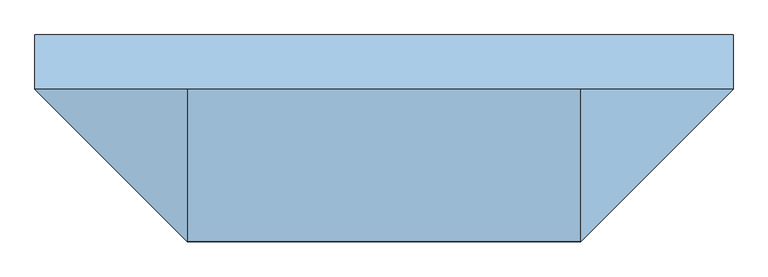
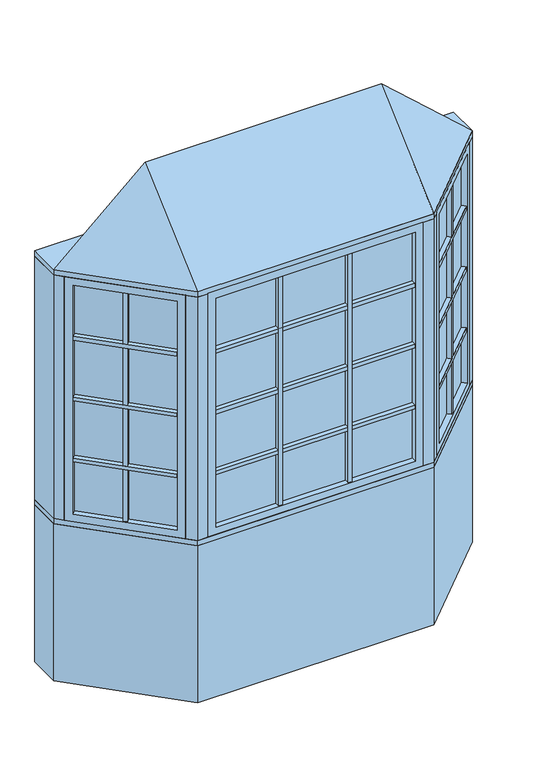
"""IFC4 building model written with IfcOpenShell, lengths in millimetres: window geometry, Pollard_Windows_Tudor Casement Bows and Bays : AML-BAY 45 AFR0612-08-500_GC."""

from ifc_helpers import new_model, si_unit, frame, origin, origin_with_axes, place, context, project, spatial, polyline, outline, extrude, faceted_brep, source, transform, mapped, element, save


def window_bb3dbd00(model_context):
    return source(origin(), model_context, "Body", "SolidModel", [
        extrude(outline(polyline([(609.3614193, -437.1108753), (593.8050701, -421.5545261), (901.616171, -113.7434252), (917.1725202, -129.2997743), (609.3614193, -437.1108753)])), frame((0.0, 0.0, 1390.998), z_axis=(0.0, 0.0, 1.0), x_axis=(1.0, 0.0, 0.0)), (0.0, 0.0, 1.0), 18.0),
        extrude(outline(polyline([(590.2129677, -417.9624236), (574.6566185, -402.4060744), (882.4677194, -94.5949735), (898.0240686, -110.1513227), (590.2129677, -417.9624236)])), frame((0.0, 0.0, 1390.998), z_axis=(0.0, 0.0, 1.0), x_axis=(1.0, 0.0, 0.0)), (0.0, 0.0, 1.0), 18.0),
        extrude(outline(polyline([(609.3614193, -437.1108753), (593.8050701, -421.5545261), (901.616171, -113.7434252), (917.1725202, -129.2997743), (609.3614193, -437.1108753)])), frame((0.0, 0.0, 1090.998), z_axis=(0.0, 0.0, 1.0), x_axis=(1.0, 0.0, 0.0)), (0.0, 0.0, 1.0), 18.0),
        extrude(outline(polyline([(590.2129677, -417.9624236), (574.6566185, -402.4060744), (882.4677194, -94.5949735), (898.0240686, -110.1513227), (590.2129677, -417.9624236)])), frame((0.0, 0.0, 1090.998), z_axis=(0.0, 0.0, 1.0), x_axis=(1.0, 0.0, 0.0)), (0.0, 0.0, 1.0), 18.0),
        extrude(outline(polyline([(609.3614193, -437.1108753), (593.8050701, -421.5545261), (901.616171, -113.7434252), (917.1725202, -129.2997743), (609.3614193, -437.1108753)])), frame((0.0, 0.0, 1390.998), z_axis=(0.0, 0.0, 1.0), x_axis=(1.0, 0.0, 0.0)), (0.0, 0.0, 1.0), 18.0),
        extrude(outline(polyline([(590.2129677, -417.9624236), (574.6566185, -402.4060744), (882.4677194, -94.5949735), (898.0240686, -110.1513227), (590.2129677, -417.9624236)])), frame((0.0, 0.0, 1390.998), z_axis=(0.0, 0.0, 1.0), x_axis=(1.0, 0.0, 0.0)), (0.0, 0.0, 1.0), 18.0),
        extrude(outline(polyline([(609.3614193, -437.1108753), (593.8050701, -421.5545261), (901.616171, -113.7434252), (917.1725202, -129.2997743), (609.3614193, -437.1108753)])), frame((0.0, 0.0, 1390.998), z_axis=(0.0, 0.0, 1.0), x_axis=(1.0, 0.0, 0.0)), (0.0, 0.0, 1.0), 18.0),
        extrude(outline(polyline([(590.2129677, -417.9624236), (574.6566185, -402.4060744), (882.4677194, -94.5949735), (898.0240686, -110.1513227), (590.2129677, -417.9624236)])), frame((0.0, 0.0, 1390.998), z_axis=(0.0, 0.0, 1.0), x_axis=(1.0, 0.0, 0.0)), (0.0, 0.0, 1.0), 18.0),
        extrude(outline(polyline([(609.3614193, -437.1108753), (593.8050701, -421.5545261), (901.616171, -113.7434252), (917.1725202, -129.2997743), (609.3614193, -437.1108753)])), frame((0.0, 0.0, 1690.998), z_axis=(0.0, 0.0, 1.0), x_axis=(1.0, 0.0, 0.0)), (0.0, 0.0, 1.0), 18.0),
        extrude(outline(polyline([(590.2129677, -417.9624236), (574.6566185, -402.4060744), (882.4677194, -94.5949735), (898.0240686, -110.1513227), (590.2129677, -417.9624236)])), frame((0.0, 0.0, 1690.998), z_axis=(0.0, 0.0, 1.0), x_axis=(1.0, 0.0, 0.0)), (0.0, 0.0, 1.0), 18.0),
        extrude(outline(polyline([(754.0745816, -261.2850146), (769.6309308, -276.8413638), (756.9030087, -289.5692858), (741.3466595, -274.0129366), (754.0745816, -261.2850146)])), frame((0.0, 0.0, 835.8628), z_axis=(0.0, 0.0, 1.0), x_axis=(1.0, 0.0, 0.0)), (0.0, 0.0, 1.0), 1128.2704),
        extrude(outline(polyline([(750.4824791, -257.6929121), (737.7545571, -270.4208342), (722.1982079, -254.864485), (734.92613, -242.1365629), (750.4824791, -257.6929121)])), frame((0.0, 0.0, 835.8628), z_axis=(0.0, 0.0, 1.0), x_axis=(1.0, 0.0, 0.0)), (0.0, 0.0, 1.0), 1128.2704),
        extrude(outline(polyline([(910.5964271, -104.763169), (584.824814, -430.5347822), (581.2327115, -426.9426797), (907.0043247, -101.1710666), (910.5964271, -104.763169)])), frame((0.0, 0.0, 823.1628), z_axis=(0.0, 0.0, 1.0), x_axis=(1.0, 0.0, 0.0)), (0.0, 0.0, 1.0), 1153.6704),
        faceted_brep([(901.616171, -113.7434252, 835.8628), (919.5766833, -131.7039374, 835.8628), (919.5766833, -131.7039374, 1964.1332), (901.616171, -113.7434252, 1964.1332), (907.0043247, -101.1710666, 823.1628), (910.5964271, -104.763169, 823.1628), (910.5964271, -104.763169, 1976.8332), (907.0043247, -101.1710666, 1976.8332), (880.0635563, -92.1908105, 835.8628), (898.0240686, -110.1513227, 835.8628), (898.0240686, -110.1513227, 1964.1332), (880.0635563, -92.1908105, 1964.1332), (944.9369265, -106.3436941, 799.998), (905.4237996, -66.8305672, 799.998), (905.4237996, -66.8305672, 1999.998), (944.9369265, -106.3436941, 1999.998), (611.7655823, -439.5150383, 1964.1332), (593.8050701, -421.5545261, 1964.1332), (584.824814, -430.5347822, 1976.8332), (581.2327115, -426.9426797, 1976.8332), (590.2129677, -417.9624236, 1964.1332), (572.2524554, -400.0019114, 1964.1332), (546.8922121, -425.3621547, 1999.998), (586.4053391, -464.8752816, 1999.998), (611.7655823, -439.5150383, 835.8628), (593.8050701, -421.5545261, 835.8628), (584.824814, -430.5347822, 823.1628), (581.2327115, -426.9426797, 823.1628), (590.2129677, -417.9624236, 835.8628), (572.2524554, -400.0019114, 835.8628), (546.8922121, -425.3621547, 799.998), (586.4053391, -464.8752816, 799.998)], [[[0, 1, 2, 3]], [[4, 5, 6, 7]], [[8, 9, 10, 11]], [[12, 13, 14, 15]], [[3, 2, 16, 17]], [[7, 6, 18, 19]], [[11, 10, 20, 21]], [[15, 14, 22, 23]], [[17, 16, 24, 25]], [[19, 18, 26, 27]], [[21, 20, 28, 29]], [[23, 22, 30, 31]], [[25, 24, 1, 0]], [[5, 26, 18, 6], [3, 17, 25, 0]], [[27, 26, 5, 4]], [[7, 19, 27, 4], [9, 28, 20, 10]], [[29, 28, 9, 8]], [[13, 30, 22, 14], [11, 21, 29, 8]], [[31, 30, 13, 12]], [[15, 23, 31, 12], [1, 24, 16, 2]]]),
        extrude(outline(polyline([(171.2952, -474.8306207), (171.2952, -496.8306207), (153.2952, -496.8306207), (153.2952, -474.8306207), (171.2952, -474.8306207)])), frame((0.0, 0.0, 835.8628), z_axis=(0.0, 0.0, 1.0), x_axis=(1.0, 0.0, 0.0)), (0.0, 0.0, 1.0), 1128.2704),
        extrude(outline(polyline([(171.2952, -469.7506207), (153.2952, -469.7506207), (153.2952, -447.7506207), (171.2952, -447.7506207), (171.2952, -469.7506207)])), frame((0.0, 0.0, 835.8628), z_axis=(0.0, 0.0, 1.0), x_axis=(1.0, 0.0, 0.0)), (0.0, 0.0, 1.0), 1128.2704),
        extrude(outline(polyline([(-153.2952, -474.8306207), (-153.2952, -496.8306207), (-171.2952, -496.8306207), (-171.2952, -474.8306207), (-153.2952, -474.8306207)])), frame((0.0, 0.0, 835.8628), z_axis=(0.0, 0.0, 1.0), x_axis=(1.0, 0.0, 0.0)), (0.0, 0.0, 1.0), 1128.2704),
        extrude(outline(polyline([(-153.2952, -469.7506207), (-171.2952, -469.7506207), (-171.2952, -447.7506207), (-153.2952, -447.7506207), (-153.2952, -469.7506207)])), frame((0.0, 0.0, 835.8628), z_axis=(0.0, 0.0, 1.0), x_axis=(1.0, 0.0, 0.0)), (0.0, 0.0, 1.0), 1128.2704),
        extrude(outline(polyline([(-465.1852, -496.8306207), (-465.1852, -474.8306207), (465.1852, -474.8306207), (465.1852, -496.8306207), (-465.1852, -496.8306207)])), frame((0.0, 0.0, 1090.998), z_axis=(0.0, 0.0, 1.0), x_axis=(1.0, 0.0, 0.0)), (0.0, 0.0, 1.0), 18.0),
        extrude(outline(polyline([(-465.1852, -469.7506207), (-465.1852, -447.7506207), (465.1852, -447.7506207), (465.1852, -469.7506207), (-465.1852, -469.7506207)])), frame((0.0, 0.0, 1090.998), z_axis=(0.0, 0.0, 1.0), x_axis=(1.0, 0.0, 0.0)), (0.0, 0.0, 1.0), 18.0),
        extrude(outline(polyline([(-465.1852, -496.8306207), (-465.1852, -474.8306207), (465.1852, -474.8306207), (465.1852, -496.8306207), (-465.1852, -496.8306207)])), frame((0.0, 0.0, 1390.998), z_axis=(0.0, 0.0, 1.0), x_axis=(1.0, 0.0, 0.0)), (0.0, 0.0, 1.0), 18.0),
        extrude(outline(polyline([(-465.1852, -469.7506207), (-465.1852, -447.7506207), (465.1852, -447.7506207), (465.1852, -469.7506207), (-465.1852, -469.7506207)])), frame((0.0, 0.0, 1390.998), z_axis=(0.0, 0.0, 1.0), x_axis=(1.0, 0.0, 0.0)), (0.0, 0.0, 1.0), 18.0),
        extrude(outline(polyline([(-465.1852, -496.8306207), (-465.1852, -474.8306207), (465.1852, -474.8306207), (465.1852, -496.8306207), (-465.1852, -496.8306207)])), frame((0.0, 0.0, 1390.998), z_axis=(0.0, 0.0, 1.0), x_axis=(1.0, 0.0, 0.0)), (0.0, 0.0, 1.0), 18.0),
        extrude(outline(polyline([(-465.1852, -469.7506207), (-465.1852, -447.7506207), (465.1852, -447.7506207), (465.1852, -469.7506207), (-465.1852, -469.7506207)])), frame((0.0, 0.0, 1390.998), z_axis=(0.0, 0.0, 1.0), x_axis=(1.0, 0.0, 0.0)), (0.0, 0.0, 1.0), 18.0),
        extrude(outline(polyline([(-465.1852, -496.8306207), (-465.1852, -474.8306207), (465.1852, -474.8306207), (465.1852, -496.8306207), (-465.1852, -496.8306207)])), frame((0.0, 0.0, 1390.998), z_axis=(0.0, 0.0, 1.0), x_axis=(1.0, 0.0, 0.0)), (0.0, 0.0, 1.0), 18.0),
        extrude(outline(polyline([(-465.1852, -469.7506207), (-465.1852, -447.7506207), (465.1852, -447.7506207), (465.1852, -469.7506207), (-465.1852, -469.7506207)])), frame((0.0, 0.0, 1390.998), z_axis=(0.0, 0.0, 1.0), x_axis=(1.0, 0.0, 0.0)), (0.0, 0.0, 1.0), 18.0),
        extrude(outline(polyline([(-917.1725202, -129.2997743), (-901.616171, -113.7434252), (-593.8050701, -421.5545261), (-609.3614193, -437.1108753), (-917.1725202, -129.2997743)])), frame((0.0, 0.0, 1090.998), z_axis=(0.0, 0.0, 1.0), x_axis=(1.0, 0.0, 0.0)), (0.0, 0.0, 1.0), 18.0),
        extrude(outline(polyline([(-898.0240686, -110.1513227), (-882.4677194, -94.5949735), (-574.6566185, -402.4060744), (-590.2129677, -417.9624236), (-898.0240686, -110.1513227)])), frame((0.0, 0.0, 1090.998), z_axis=(0.0, 0.0, 1.0), x_axis=(1.0, 0.0, 0.0)), (0.0, 0.0, 1.0), 18.0),
        extrude(outline(polyline([(-917.1725202, -129.2997743), (-901.616171, -113.7434252), (-593.8050701, -421.5545261), (-609.3614193, -437.1108753), (-917.1725202, -129.2997743)])), frame((0.0, 0.0, 1390.998), z_axis=(0.0, 0.0, 1.0), x_axis=(1.0, 0.0, 0.0)), (0.0, 0.0, 1.0), 18.0),
        extrude(outline(polyline([(-898.0240686, -110.1513227), (-882.4677194, -94.5949735), (-574.6566185, -402.4060744), (-590.2129677, -417.9624236), (-898.0240686, -110.1513227)])), frame((0.0, 0.0, 1390.998), z_axis=(0.0, 0.0, 1.0), x_axis=(1.0, 0.0, 0.0)), (0.0, 0.0, 1.0), 18.0),
        extrude(outline(polyline([(-917.1725202, -129.2997743), (-901.616171, -113.7434252), (-593.8050701, -421.5545261), (-609.3614193, -437.1108753), (-917.1725202, -129.2997743)])), frame((0.0, 0.0, 1390.998), z_axis=(0.0, 0.0, 1.0), x_axis=(1.0, 0.0, 0.0)), (0.0, 0.0, 1.0), 18.0),
        extrude(outline(polyline([(-898.0240686, -110.1513227), (-882.4677194, -94.5949735), (-574.6566185, -402.4060744), (-590.2129677, -417.9624236), (-898.0240686, -110.1513227)])), frame((0.0, 0.0, 1390.998), z_axis=(0.0, 0.0, 1.0), x_axis=(1.0, 0.0, 0.0)), (0.0, 0.0, 1.0), 18.0),
        extrude(outline(polyline([(-917.1725202, -129.2997743), (-901.616171, -113.7434252), (-593.8050701, -421.5545261), (-609.3614193, -437.1108753), (-917.1725202, -129.2997743)])), frame((0.0, 0.0, 1390.998), z_axis=(0.0, 0.0, 1.0), x_axis=(1.0, 0.0, 0.0)), (0.0, 0.0, 1.0), 18.0),
        extrude(outline(polyline([(-898.0240686, -110.1513227), (-882.4677194, -94.5949735), (-574.6566185, -402.4060744), (-590.2129677, -417.9624236), (-898.0240686, -110.1513227)])), frame((0.0, 0.0, 1390.998), z_axis=(0.0, 0.0, 1.0), x_axis=(1.0, 0.0, 0.0)), (0.0, 0.0, 1.0), 18.0),
        extrude(outline(polyline([(-917.1725202, -129.2997743), (-901.616171, -113.7434252), (-593.8050701, -421.5545261), (-609.3614193, -437.1108753), (-917.1725202, -129.2997743)])), frame((0.0, 0.0, 1690.998), z_axis=(0.0, 0.0, 1.0), x_axis=(1.0, 0.0, 0.0)), (0.0, 0.0, 1.0), 18.0),
        extrude(outline(polyline([(-898.0240686, -110.1513227), (-882.4677194, -94.5949735), (-574.6566185, -402.4060744), (-590.2129677, -417.9624236), (-898.0240686, -110.1513227)])), frame((0.0, 0.0, 1690.998), z_axis=(0.0, 0.0, 1.0), x_axis=(1.0, 0.0, 0.0)), (0.0, 0.0, 1.0), 18.0),
        extrude(outline(polyline([(-465.1852, -496.8306207), (-465.1852, -474.8306207), (465.1852, -474.8306207), (465.1852, -496.8306207), (-465.1852, -496.8306207)])), frame((0.0, 0.0, 1690.998), z_axis=(0.0, 0.0, 1.0), x_axis=(1.0, 0.0, 0.0)), (0.0, 0.0, 1.0), 18.0),
        extrude(outline(polyline([(-465.1852, -469.7506207), (-465.1852, -447.7506207), (465.1852, -447.7506207), (465.1852, -469.7506207), (-465.1852, -469.7506207)])), frame((0.0, 0.0, 1690.998), z_axis=(0.0, 0.0, 1.0), x_axis=(1.0, 0.0, 0.0)), (0.0, 0.0, 1.0), 18.0),
        extrude(outline(polyline([(-741.3466595, -274.0129366), (-756.9030087, -289.5692858), (-769.6309308, -276.8413638), (-754.0745816, -261.2850146), (-741.3466595, -274.0129366)])), frame((0.0, 0.0, 835.8628), z_axis=(0.0, 0.0, 1.0), x_axis=(1.0, 0.0, 0.0)), (0.0, 0.0, 1.0), 1128.2704),
        extrude(outline(polyline([(-737.7545571, -270.4208342), (-750.4824791, -257.6929121), (-734.92613, -242.1365629), (-722.1982079, -254.864485), (-737.7545571, -270.4208342)])), frame((0.0, 0.0, 835.8628), z_axis=(0.0, 0.0, 1.0), x_axis=(1.0, 0.0, 0.0)), (0.0, 0.0, 1.0), 1128.2704),
        extrude(outline(polyline([(-584.824814, -430.5347822), (-910.5964271, -104.763169), (-907.0043247, -101.1710666), (-581.2327115, -426.9426797), (-584.824814, -430.5347822)])), frame((0.0, 0.0, 823.1628), z_axis=(0.0, 0.0, 1.0), x_axis=(1.0, 0.0, 0.0)), (0.0, 0.0, 1.0), 1153.6704),
        faceted_brep([(-590.2129677, -417.9624236, 1964.1332), (-572.2524554, -400.0019114, 1964.1332), (-572.2524554, -400.0019114, 835.8628), (-590.2129677, -417.9624236, 835.8628), (-584.824814, -430.5347822, 1976.8332), (-581.2327115, -426.9426797, 1976.8332), (-581.2327115, -426.9426797, 823.1628), (-584.824814, -430.5347822, 823.1628), (-611.7655823, -439.5150383, 1964.1332), (-593.8050701, -421.5545261, 1964.1332), (-593.8050701, -421.5545261, 835.8628), (-611.7655823, -439.5150383, 835.8628), (-546.8922121, -425.3621547, 1999.998), (-586.4053391, -464.8752816, 1999.998), (-586.4053391, -464.8752816, 799.998), (-546.8922121, -425.3621547, 799.998), (-880.0635563, -92.1908105, 835.8628), (-898.0240686, -110.1513227, 835.8628), (-907.0043247, -101.1710666, 823.1628), (-910.5964271, -104.763169, 823.1628), (-901.616171, -113.7434252, 835.8628), (-919.5766833, -131.7039374, 835.8628), (-944.9369265, -106.3436941, 799.998), (-905.4237996, -66.8305672, 799.998), (-880.0635563, -92.1908105, 1964.1332), (-898.0240686, -110.1513227, 1964.1332), (-907.0043247, -101.1710666, 1976.8332), (-910.5964271, -104.763169, 1976.8332), (-901.616171, -113.7434252, 1964.1332), (-919.5766833, -131.7039374, 1964.1332), (-944.9369265, -106.3436941, 1999.998), (-905.4237996, -66.8305672, 1999.998)], [[[0, 1, 2, 3]], [[4, 5, 6, 7]], [[8, 9, 10, 11]], [[12, 13, 14, 15]], [[3, 2, 16, 17]], [[7, 6, 18, 19]], [[11, 10, 20, 21]], [[15, 14, 22, 23]], [[17, 16, 24, 25]], [[19, 18, 26, 27]], [[21, 20, 28, 29]], [[23, 22, 30, 31]], [[15, 23, 31, 12], [1, 24, 16, 2]], [[25, 24, 1, 0]], [[5, 26, 18, 6], [3, 17, 25, 0]], [[27, 26, 5, 4]], [[7, 19, 27, 4], [9, 28, 20, 10]], [[29, 28, 9, 8]], [[13, 30, 22, 14], [11, 21, 29, 8]], [[31, 30, 13, 12]]]),
        extrude(outline(polyline([(477.8852, -474.8306207), (-477.8852, -474.8306207), (-477.8852, -469.7506207), (477.8852, -469.7506207), (477.8852, -474.8306207)])), frame((0.0, 0.0, 823.1628), z_axis=(0.0, 0.0, 1.0), x_axis=(1.0, 0.0, 0.0)), (0.0, 0.0, 1.0), 1153.6704),
        faceted_brep([(465.1852, -474.8306207, 835.8628), (465.1852, -500.2306207, 835.8628), (465.1852, -500.2306207, 1964.1332), (465.1852, -474.8306207, 1964.1332), (477.8852, -469.7506207, 823.1628), (477.8852, -474.8306207, 823.1628), (477.8852, -474.8306207, 1976.8332), (477.8852, -469.7506207, 1976.8332), (465.1852, -444.3506207, 835.8628), (465.1852, -469.7506207, 835.8628), (465.1852, -469.7506207, 1964.1332), (465.1852, -444.3506207, 1964.1332), (501.05, -500.2306207, 799.998), (501.05, -444.3506207, 799.998), (501.05, -444.3506207, 1999.998), (501.05, -500.2306207, 1999.998), (-465.1852, -500.2306207, 1964.1332), (-465.1852, -474.8306207, 1964.1332), (-477.8852, -474.8306207, 1976.8332), (-477.8852, -469.7506207, 1976.8332), (-465.1852, -469.7506207, 1964.1332), (-465.1852, -444.3506207, 1964.1332), (-501.05, -444.3506207, 1999.998), (-501.05, -500.2306207, 1999.998), (-465.1852, -500.2306207, 835.8628), (-465.1852, -474.8306207, 835.8628), (-477.8852, -474.8306207, 823.1628), (-477.8852, -469.7506207, 823.1628), (-465.1852, -469.7506207, 835.8628), (-465.1852, -444.3506207, 835.8628), (-501.05, -444.3506207, 799.998), (-501.05, -500.2306207, 799.998)], [[[0, 1, 2, 3]], [[4, 5, 6, 7]], [[8, 9, 10, 11]], [[12, 13, 14, 15]], [[3, 2, 16, 17]], [[7, 6, 18, 19]], [[11, 10, 20, 21]], [[15, 14, 22, 23]], [[17, 16, 24, 25]], [[19, 18, 26, 27]], [[21, 20, 28, 29]], [[23, 22, 30, 31]], [[15, 23, 31, 12], [1, 24, 16, 2]], [[25, 24, 1, 0]], [[5, 26, 18, 6], [3, 17, 25, 0]], [[27, 26, 5, 4]], [[7, 19, 27, 4], [9, 28, 20, 10]], [[29, 28, 9, 8]], [[13, 30, 22, 14], [11, 21, 29, 8]], [[31, 30, 13, 12]]]),
        faceted_brep([(976.5, -74.7806207, 2025.398), (551.05, -500.2306207, 2025.398), (-551.05, -500.2306207, 2025.398), (-976.5, -74.7806207, 2025.398), (-551.05, -74.7806207, 2406.398), (551.05, -74.7806207, 2406.398)], [[[0, 1, 2, 3]], [[3, 2, 4]], [[2, 1, 5, 4]], [[1, 0, 5]], [[0, 3, 4, 5]]]),
        extrude(outline(polyline([(-976.5, 77.6193793), (976.5, 77.6193793), (976.5, -74.7806207), (551.05, -500.2306207), (-551.05, -500.2306207), (-976.5, -74.7806207), (-976.5, 77.6193793)])), frame((0.0, 0.0, 1999.998), z_axis=(0.0, 0.0, 1.0), x_axis=(1.0, 0.0, 0.0)), (0.0, 0.0, 1.0), 25.4),
        extrude(outline(polyline([(-976.5, -74.7806207), (-976.5, 77.6193793), (-913.3738531, 77.6193793), (-913.3738531, -74.7806207), (-944.9369265, -106.3436941), (-976.5, -74.7806207)])), frame((0.0, 0.0, 799.998), z_axis=(0.0, 0.0, 1.0), x_axis=(1.0, 0.0, 0.0)), (0.0, 0.0, 1.0), 1200.0),
        extrude(outline(polyline([(976.5, 77.6193793), (976.5, -74.7806207), (944.9369265, -106.3436941), (913.3738531, -74.7806207), (913.3738531, 77.6193793), (976.5, 77.6193793)])), frame((0.0, 0.0, 799.998), z_axis=(0.0, 0.0, 1.0), x_axis=(1.0, 0.0, 0.0)), (0.0, 0.0, 1.0), 1200.0),
        extrude(outline(polyline([(551.05, -500.2306207), (501.05, -500.2306207), (501.05, -450.2306207), (530.3393219, -450.2306207), (551.05, -429.5199425), (586.4053391, -464.8752816), (551.05, -500.2306207)])), frame((0.0, 0.0, 799.998), z_axis=(0.0, 0.0, 1.0), x_axis=(1.0, 0.0, 0.0)), (0.0, 0.0, 1.0), 1200.0),
        extrude(outline(polyline([(-551.05, -500.2306207), (-586.4053391, -464.8752816), (-551.05, -429.5199425), (-530.3393219, -450.2306207), (-501.05, -450.2306207), (-501.05, -500.2306207), (-551.05, -500.2306207)])), frame((0.0, 0.0, 799.998), z_axis=(0.0, 0.0, 1.0), x_axis=(1.0, 0.0, 0.0)), (0.0, 0.0, 1.0), 1200.0),
        extrude(outline(polyline([(-551.05, -500.2306207), (-976.5, -74.7806207), (-976.5, 77.6193793), (-913.3738531, 77.6193793), (-487.9238531, -347.8306207), (487.9238531, -347.8306207), (913.3738531, 77.6193793), (976.5, 77.6193793), (976.5, -74.7806207), (551.05, -500.2306207), (-551.05, -500.2306207)])), frame((0.0, 0.0, 774.598), z_axis=(0.0, 0.0, 1.0), x_axis=(1.0, 0.0, 0.0)), (0.0, 0.0, 1.0), 25.4),
        extrude(outline(polyline([(-976.5, -74.7806207), (-976.5, 77.6193793), (-913.3738531, 77.6193793), (-487.9238531, -347.8306207), (487.9238531, -347.8306207), (913.3738531, 77.6193793), (976.5, 77.6193793), (976.5, -74.7806207), (551.05, -500.2306207), (-551.05, -500.2306207), (-976.5, -74.7806207)])), origin_with_axes(), (0.0, 0.0, 1.0), 774.598),
    ])


if __name__ == "__main__":
    model = new_model("IFC4")
    model_context = context("Model", 3, world=origin())
    ifc_project = project(units=[si_unit("LENGTHUNIT", "METRE", prefix="MILLI")], contexts=[model_context])
    site = spatial("IfcSite", under=ifc_project)
    building = spatial("IfcBuilding", under=site)
    placement = place(None, origin())
    window_shape = window_bb3dbd00(model_context)
    element("IfcWindow", 1, ObjectType="Pollard_Windows_Tudor Casement Bows and Bays : AML-BAY 45 AFR0612-08-500_GC", at=placement, inside=building, context=model_context, shape_type="MappedRepresentation", body=[
        mapped(window_shape, transform((0.0, 0.0, 0.0), x_axis=(1.0, 0.0, 0.0), y_axis=(0.0, 1.0, 0.0), z_axis=(0.0, 0.0, 1.0))),
    ])
    save(model, "model.ifc")
